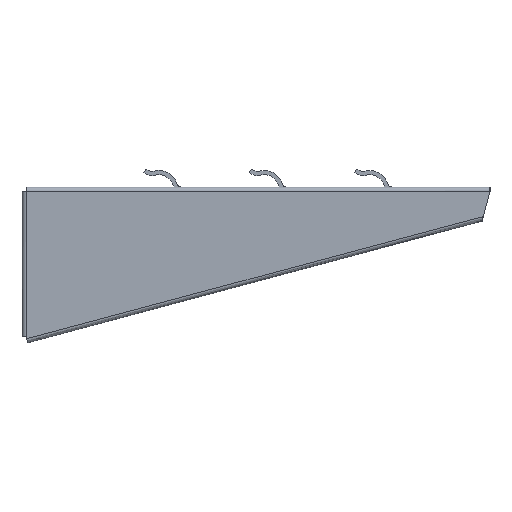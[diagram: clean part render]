
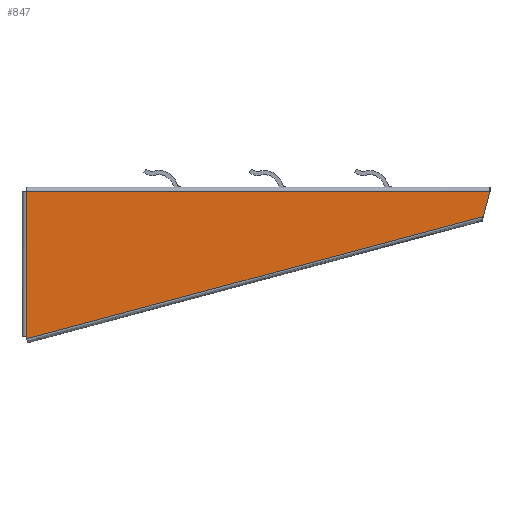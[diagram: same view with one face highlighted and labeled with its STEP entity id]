
A CAD part, left-side view. The second image highlights one B-rep face of the part: STEP entity #847.
In plain terms, the highlighted free-form (B-spline) face has degree [1, 1] with [2, 2] control points.
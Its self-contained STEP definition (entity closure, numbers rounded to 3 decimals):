
#847=ADVANCED_FACE($,(#917),#2036,.T.);
#917=FACE_OUTER_BOUND($,#987,.T.);
#987=EDGE_LOOP($,(#1079,#1080,#1081,#1082,#1083));
#1079=ORIENTED_EDGE($,*,*,#1403,.T.);
#1080=ORIENTED_EDGE($,*,*,#1407,.T.);
#1081=ORIENTED_EDGE($,*,*,#1406,.T.);
#1082=ORIENTED_EDGE($,*,*,#1405,.T.);
#1083=ORIENTED_EDGE($,*,*,#1404,.T.);
#1403=EDGE_CURVE($,#1727,#1731,#2062,.T.);
#1404=EDGE_CURVE($,#1728,#1727,#2063,.T.);
#1405=EDGE_CURVE($,#1729,#1728,#2064,.T.);
#1406=EDGE_CURVE($,#1730,#1729,#2065,.T.);
#1407=EDGE_CURVE($,#1731,#1730,#2066,.T.);
#1727=VERTEX_POINT($,#2495);
#1728=VERTEX_POINT($,#2496);
#1729=VERTEX_POINT($,#2497);
#1730=VERTEX_POINT($,#2498);
#1731=VERTEX_POINT($,#2499);
#2036=B_SPLINE_SURFACE_WITH_KNOTS($,1,1,((#2491,#2492),(#2493,#2494)),.UNSPECIFIED.,
.F.,.F.,.F.,(2,2),(2,2),(0.,220.),(0.,69.965),.UNSPECIFIED.);
#2062=B_SPLINE_CURVE_WITH_KNOTS($,1,(#2481,#2482),.UNSPECIFIED.,.F.,.F.,
(2,2),(0.,220.),.UNSPECIFIED.);
#2063=B_SPLINE_CURVE_WITH_KNOTS($,1,(#2483,#2484),.UNSPECIFIED.,.F.,.F.,
(2,2),(514.179,526.543),.UNSPECIFIED.);
#2064=B_SPLINE_CURVE_WITH_KNOTS($,1,(#2485,#2486),.UNSPECIFIED.,.F.,.F.,
(2,2),(289.999,514.179),.UNSPECIFIED.);
#2065=B_SPLINE_CURVE_WITH_KNOTS($,1,(#2487,#2488),.UNSPECIFIED.,.F.,.F.,
(2,2),(289.,289.999),.UNSPECIFIED.);
#2066=B_SPLINE_CURVE_WITH_KNOTS($,1,(#2489,#2490),.UNSPECIFIED.,.F.,.F.,
(2,2),(220.,289.),.UNSPECIFIED.);
#2481=CARTESIAN_POINT($,(-16.741,-473.532,-2.));
#2482=CARTESIAN_POINT($,(-16.741,-253.532,-2.));
#2483=CARTESIAN_POINT($,(-16.741,-470.332,-13.942));
#2484=CARTESIAN_POINT($,(-16.741,-473.532,-2.));
#2485=CARTESIAN_POINT($,(-16.741,-253.791,-71.965));
#2486=CARTESIAN_POINT($,(-16.741,-470.332,-13.942));
#2487=CARTESIAN_POINT($,(-16.741,-253.532,-71.));
#2488=CARTESIAN_POINT($,(-16.741,-253.791,-71.965));
#2489=CARTESIAN_POINT($,(-16.741,-253.532,-2.));
#2490=CARTESIAN_POINT($,(-16.741,-253.532,-71.));
#2491=CARTESIAN_POINT($,(-16.741,-473.532,-2.));
#2492=CARTESIAN_POINT($,(-16.741,-473.532,-71.965));
#2493=CARTESIAN_POINT($,(-16.741,-253.532,-2.));
#2494=CARTESIAN_POINT($,(-16.741,-253.532,-71.965));
#2495=CARTESIAN_POINT($,(-16.741,-473.532,-2.));
#2496=CARTESIAN_POINT($,(-16.741,-470.332,-13.942));
#2497=CARTESIAN_POINT($,(-16.741,-253.791,-71.965));
#2498=CARTESIAN_POINT($,(-16.741,-253.532,-71.));
#2499=CARTESIAN_POINT($,(-16.741,-253.532,-2.));
